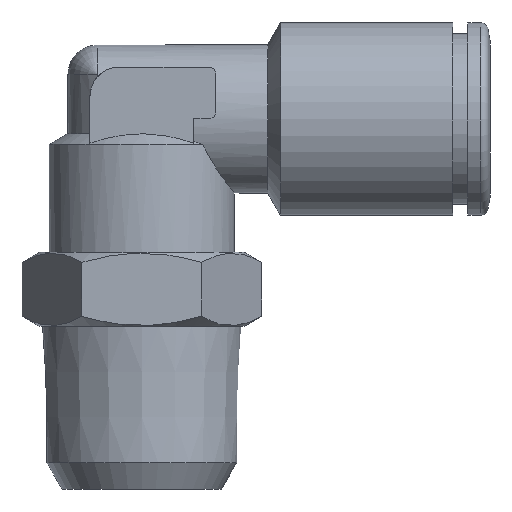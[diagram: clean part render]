
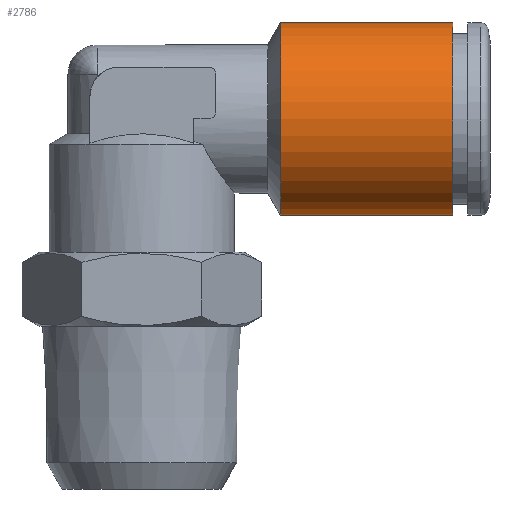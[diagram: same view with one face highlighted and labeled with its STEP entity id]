
A CAD part, front view. The second image highlights one B-rep face of the part: STEP entity #2786.
In plain terms, the highlighted cylindrical face has radius 6.5 mm (diameter 13 mm), a full revolution.
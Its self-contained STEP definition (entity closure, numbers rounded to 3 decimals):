
#1401=CYLINDRICAL_SURFACE('',#2647,6.5);
#1559=ORIENTED_EDGE('',*,*,#1923,.F.);
#1560=ORIENTED_EDGE('',*,*,#1922,.T.);
#1731=CIRCLE('',#2646,6.5);
#1732=CIRCLE('',#2648,6.5);
#1817=VERTEX_POINT('',#4099);
#1818=VERTEX_POINT('',#4102);
#1922=EDGE_CURVE('',#1817,#1817,#1731,.T.);
#1923=EDGE_CURVE('',#1818,#1818,#1732,.T.);
#2032=EDGE_LOOP('',(#1559));
#2033=EDGE_LOOP('',(#1560));
#2153=FACE_BOUND('',#2032,.T.);
#2154=FACE_BOUND('',#2033,.T.);
#2372=DIRECTION('',(1.,0.,0.));
#2373=DIRECTION('',(0.,6.5,0.));
#2374=DIRECTION('',(-1.,0.,0.));
#2375=DIRECTION('',(0.,1.,0.));
#2376=DIRECTION('',(1.,0.,0.));
#2377=DIRECTION('',(0.,6.5,0.));
#2646=AXIS2_PLACEMENT_3D('',#4100,#2372,#2373);
#2647=AXIS2_PLACEMENT_3D('',#4101,#2374,#2375);
#2648=AXIS2_PLACEMENT_3D('',#4103,#2376,#2377);
#2786=ADVANCED_FACE('',(#2153,#2154),#1401,.T.);
#4099=CARTESIAN_POINT('',(9.366,15.5,0.));
#4100=CARTESIAN_POINT('',(9.366,9.,0.));
#4101=CARTESIAN_POINT('',(21.,9.,0.));
#4102=CARTESIAN_POINT('',(21.,15.5,0.));
#4103=CARTESIAN_POINT('',(21.,9.,0.));
